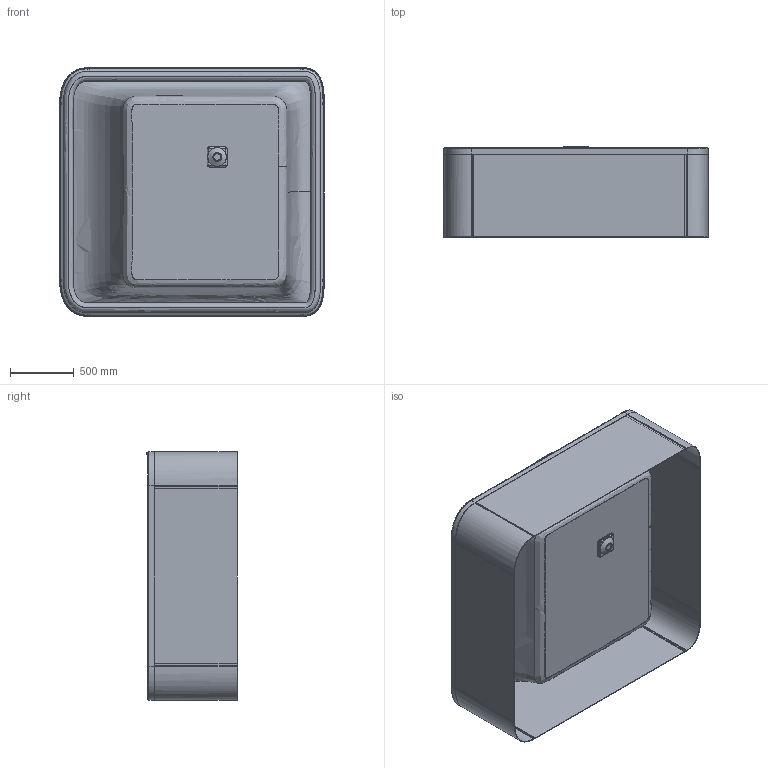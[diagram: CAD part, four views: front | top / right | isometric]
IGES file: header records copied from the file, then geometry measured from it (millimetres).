
Start section: SolidWorks IGES file using analytic representation for surfaces
Global section: file name: D:\Users\M.Szymanski\Desktop\Wanny\ergo-stripe\03. do przegrania\WP_ERGO_kpl_2075x1950.IGS; native system: SolidWorks 2011; preprocessor: SolidWorks 2011; author: M.Szymanski; date: 180920.123100; units: millimetre
Bounding box: 2075 x 709.03 x 1950 mm (x, y, z)
Surface area: 24419960 mm2 (no closed solid volume)
Topology: 0 solids, 0 shells, 391 faces, 7378 edges, 8203 vertices
Faces by surface type: bspline 264, revolution 127
